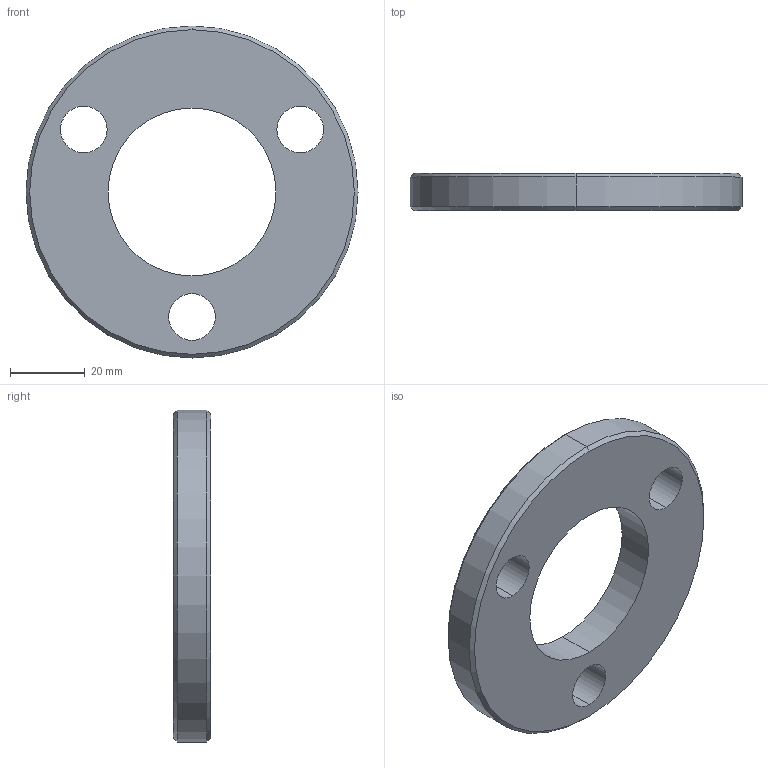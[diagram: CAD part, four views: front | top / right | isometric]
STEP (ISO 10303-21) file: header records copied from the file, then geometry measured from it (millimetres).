
FILE_DESCRIPTION (( 'STEP AP203' ), '1' );
FILE_NAME ('HL-DK-350-1000-1000-05 誘啣菜え.STEP', '2026-05-11T08:19:03', ( 'Windows 蚚誧' ), ( '' ), 'SwSTEP 2.0', 'SolidWorks 2020', '' );
FILE_SCHEMA (( 'CONFIG_CONTROL_DESIGN' ));
Length unit declared in the file: millimetre
Products named in the file (1): HL-DK-350-1000-1000-05 誘啣菜え
Bounding box: 89 x 10 x 89 mm (x, y, z)
Volume: 42348 mm3; surface area: 13582.8 mm2
Topology: 1 solids, 1 shells, 16 faces, 38 edges, 24 vertices
Faces by surface type: cylinder 10, cone 4, plane 2
Entity records: 567 total; most frequent: DIRECTION 96, CARTESIAN_POINT 79, ORIENTED_EDGE 76, AXIS2_PLACEMENT_3D 41, EDGE_CURVE 38, VERTEX_POINT 24, EDGE_LOOP 24, CIRCLE 24
